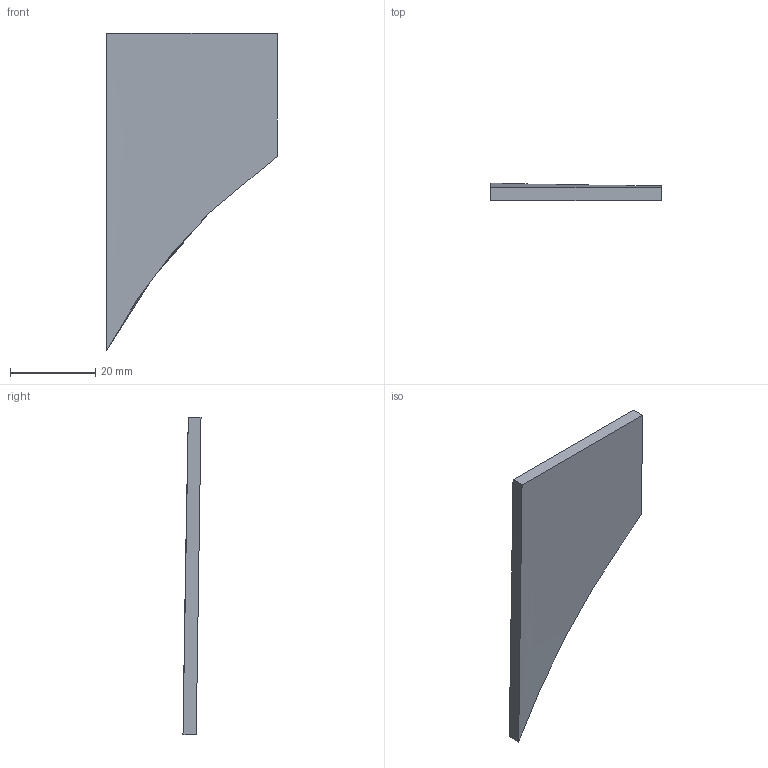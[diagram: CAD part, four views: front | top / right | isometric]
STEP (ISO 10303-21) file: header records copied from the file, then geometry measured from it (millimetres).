
FILE_DESCRIPTION(('Open CASCADE Model'),'2;1');
FILE_NAME('Open CASCADE Shape Model','2026-11-03T04:29:30',('Author'),( 'Open CASCADE'),'Open CASCADE STEP processor 7.8','Open CASCADE 7.8' ,'Unknown');
FILE_SCHEMA(('AUTOMOTIVE_DESIGN { 1 0 10303 214 1 1 1 1 }'));
Length unit declared in the file: millimetre
Products named in the file (1): Open CASCADE STEP translator 7.8 9
Bounding box: 40 x 4.23 x 74.38 mm (x, y, z)
Volume: 5829.3 mm3; surface area: 4460 mm2
Topology: 1 solids, 1 shells, 6 faces, 12 edges, 8 vertices
Faces by surface type: plane 3, bspline 2, cylinder 1
Entity records: 890 total; most frequent: CARTESIAN_POINT 677, B_SPLINE_CURVE_WITH_KNOTS 26, ORIENTED_EDGE 24, PCURVE 24, DEFINITIONAL_REPRESENTATION 24, DIRECTION 20, EDGE_CURVE 12, SURFACE_CURVE 12
